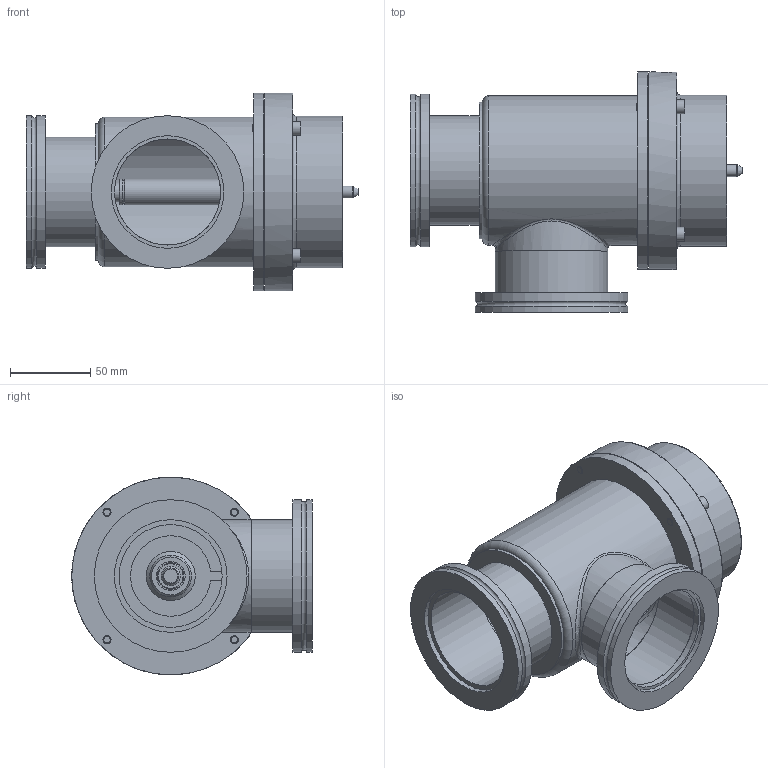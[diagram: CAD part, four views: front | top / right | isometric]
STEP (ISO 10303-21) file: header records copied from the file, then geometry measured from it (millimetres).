
FILE_DESCRIPTION(/* description */ (''),/* implementation_level */ '2;1');
FILE_NAME(/* name */ '1229252140_203.stp',/* time_stamp */ '2013-07-25T07:53:26+02:00',/* author */ (''),/* organization */ (''),/* preprocessor_version */ 'ST-DEVELOPER v11',/* originating_system */ 'SIEMENS PLM Software NX 7.5',/* authorisation */ '');
FILE_SCHEMA (('AP203_CONFIGURATION_CONTROLLED_3D_DESIGN_OF_MECHANICAL_PARTS_AND_ASSEMBLIES_MIM_LF'));
Length unit declared in the file: millimetre
Products named in the file (12): 559132; 547308_18234ID; 547290; 521644; 547368_20210ID; 254383; 259415.2; 243267.7; N-6013-443.2; 224796.1; 547281_MODEL; 703870
Assembly tree (15 placements, depth 3):
  703870
    224796.1  x4
    N-6013-443.2  x2
    243267.7
    259415.2
    254383
    547281_MODEL
      547368_20210ID
      521644
      547290
      547308_18234ID
      559132
Bounding box: 206.4 x 149.5 x 123 mm (x, y, z)
Volume: 450233.1 mm3; surface area: 218595.8 mm2
Topology: 22 solids, 22 shells, 299 faces, 642 edges, 416 vertices
Faces by surface type: plane 149, cylinder 96, cone 28, torus 24, bspline 2
Full cylindrical faces by diameter (mm): 3 x2, 3.1 x1, 3.3 x2, 4 x3, 4.16 x4, 4.2 x8, 4.5 x2, 4.6 x1, 4.7 x2, 5 x8, 5.5 x4, 7 x1, 7.4 x1, 7.5 x2, 8.5 x4, 8.611 x1, 9 x1, 10.1 x1, 12 x1, 15.975 x3, 16.5 x2, 18.009 x1, 20.45 x1, 26 x1, 30.5 x1, 64 x1, 66 x3, 68 x1, 70 x3, 70.095 x1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
Entity records: 8225 total; most frequent: CARTESIAN_POINT 1693, DIRECTION 986, ORIENTED_EDGE 686, AXIS2_PLACEMENT_3D 434, EDGE_LOOP 407, FACE_BOUND 348, EDGE_CURVE 343, VERTEX_POINT 288
